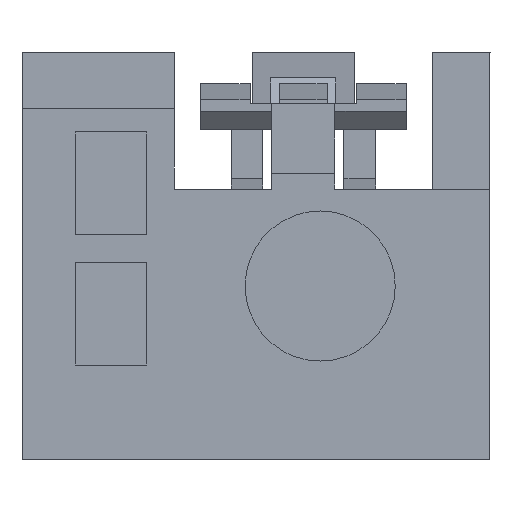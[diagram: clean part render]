
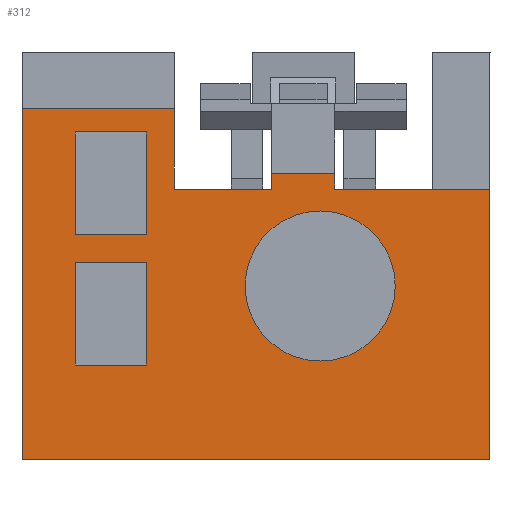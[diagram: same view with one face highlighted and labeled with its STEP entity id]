
A CAD part, left-side view. The second image highlights one B-rep face of the part: STEP entity #312.
In plain terms, the highlighted planar face has unit normal (-1, 0, 0).
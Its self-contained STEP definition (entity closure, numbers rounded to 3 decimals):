
#170=AXIS2_PLACEMENT_3D('Plane Axis2P3D',#167,#168,#169) ;
#296=AXIS2_PLACEMENT_3D('Circle Axis2P3D',#294,#295,$) ;
#305=AXIS2_PLACEMENT_3D('Circle Axis2P3D',#303,#304,$) ;
#80=CARTESIAN_POINT('Vertex',(-22.55,6.2,-2.)) ;
#83=CARTESIAN_POINT('Line Origine',(-22.55,5.3,-2.)) ;
#87=CARTESIAN_POINT('Vertex',(-22.55,4.4,-2.)) ;
#111=CARTESIAN_POINT('Vertex',(-22.55,6.2,0.6)) ;
#114=CARTESIAN_POINT('Line Origine',(-22.55,6.2,-0.7)) ;
#135=CARTESIAN_POINT('Vertex',(-22.55,4.4,0.6)) ;
#138=CARTESIAN_POINT('Line Origine',(-22.55,5.3,0.6)) ;
#155=CARTESIAN_POINT('Line Origine',(-22.55,4.4,-0.7)) ;
#167=CARTESIAN_POINT('Axis2P3D Location',(-22.55,0.,0.)) ;
#172=CARTESIAN_POINT('Line Origine',(-22.55,-4.3,-0.975)) ;
#176=CARTESIAN_POINT('Vertex',(-22.55,-4.3,-4.4)) ;
#178=CARTESIAN_POINT('Vertex',(-22.55,-4.3,2.45)) ;
#181=CARTESIAN_POINT('Line Origine',(-22.55,-2.338,2.45)) ;
#185=CARTESIAN_POINT('Vertex',(-22.55,-0.375,2.45)) ;
#188=CARTESIAN_POINT('Line Origine',(-22.55,-0.375,2.65)) ;
#192=CARTESIAN_POINT('Vertex',(-22.55,-0.375,2.85)) ;
#195=CARTESIAN_POINT('Line Origine',(-22.55,0.425,2.85)) ;
#199=CARTESIAN_POINT('Vertex',(-22.55,1.225,2.85)) ;
#202=CARTESIAN_POINT('Line Origine',(-22.55,1.225,2.65)) ;
#206=CARTESIAN_POINT('Vertex',(-22.55,1.225,2.45)) ;
#209=CARTESIAN_POINT('Line Origine',(-22.55,2.462,2.45)) ;
#213=CARTESIAN_POINT('Vertex',(-22.55,3.7,2.45)) ;
#216=CARTESIAN_POINT('Line Origine',(-22.55,3.7,3.475)) ;
#220=CARTESIAN_POINT('Vertex',(-22.55,3.7,4.5)) ;
#223=CARTESIAN_POINT('Line Origine',(-22.55,5.625,4.5)) ;
#227=CARTESIAN_POINT('Vertex',(-22.55,7.55,4.5)) ;
#230=CARTESIAN_POINT('Line Origine',(-22.55,7.55,0.05)) ;
#234=CARTESIAN_POINT('Vertex',(-22.55,7.55,-4.4)) ;
#237=CARTESIAN_POINT('Line Origine',(-22.55,1.625,-4.4)) ;
#260=CARTESIAN_POINT('Line Origine',(-22.55,5.3,1.3)) ;
#264=CARTESIAN_POINT('Vertex',(-22.55,6.2,1.3)) ;
#266=CARTESIAN_POINT('Vertex',(-22.55,4.4,1.3)) ;
#269=CARTESIAN_POINT('Line Origine',(-22.55,6.2,2.6)) ;
#273=CARTESIAN_POINT('Vertex',(-22.55,6.2,3.9)) ;
#276=CARTESIAN_POINT('Line Origine',(-22.55,5.3,3.9)) ;
#280=CARTESIAN_POINT('Vertex',(-22.55,4.4,3.9)) ;
#283=CARTESIAN_POINT('Line Origine',(-22.55,4.4,2.6)) ;
#294=CARTESIAN_POINT('Axis2P3D Location',(-22.55,0.,0.)) ;
#298=CARTESIAN_POINT('Vertex',(-22.55,-1.9,0.)) ;
#300=CARTESIAN_POINT('Vertex',(-22.55,1.9,0.)) ;
#303=CARTESIAN_POINT('Axis2P3D Location',(-22.55,0.,0.)) ;
#84=DIRECTION('Vector Direction',(0.,1.,0.)) ;
#115=DIRECTION('Vector Direction',(0.,0.,1.)) ;
#139=DIRECTION('Vector Direction',(0.,-1.,0.)) ;
#156=DIRECTION('Vector Direction',(0.,0.,-1.)) ;
#168=DIRECTION('Axis2P3D Direction',(-1.,0.,0.)) ;
#169=DIRECTION('Axis2P3D XDirection',(0.,-1.,0.)) ;
#173=DIRECTION('Vector Direction',(0.,0.,1.)) ;
#182=DIRECTION('Vector Direction',(0.,-1.,0.)) ;
#189=DIRECTION('Vector Direction',(0.,0.,1.)) ;
#196=DIRECTION('Vector Direction',(0.,1.,0.)) ;
#203=DIRECTION('Vector Direction',(0.,0.,-1.)) ;
#210=DIRECTION('Vector Direction',(0.,-1.,0.)) ;
#217=DIRECTION('Vector Direction',(0.,0.,-1.)) ;
#224=DIRECTION('Vector Direction',(0.,-1.,0.)) ;
#231=DIRECTION('Vector Direction',(0.,0.,1.)) ;
#238=DIRECTION('Vector Direction',(0.,1.,0.)) ;
#261=DIRECTION('Vector Direction',(0.,1.,0.)) ;
#270=DIRECTION('Vector Direction',(0.,0.,1.)) ;
#277=DIRECTION('Vector Direction',(0.,-1.,0.)) ;
#284=DIRECTION('Vector Direction',(0.,0.,-1.)) ;
#295=DIRECTION('Axis2P3D Direction',(-1.,0.,0.)) ;
#304=DIRECTION('Axis2P3D Direction',(-1.,0.,0.)) ;
#85=VECTOR('Line Direction',#84,1.) ;
#116=VECTOR('Line Direction',#115,1.) ;
#140=VECTOR('Line Direction',#139,1.) ;
#157=VECTOR('Line Direction',#156,1.) ;
#174=VECTOR('Line Direction',#173,1.) ;
#183=VECTOR('Line Direction',#182,1.) ;
#190=VECTOR('Line Direction',#189,1.) ;
#197=VECTOR('Line Direction',#196,1.) ;
#204=VECTOR('Line Direction',#203,1.) ;
#211=VECTOR('Line Direction',#210,1.) ;
#218=VECTOR('Line Direction',#217,1.) ;
#225=VECTOR('Line Direction',#224,1.) ;
#232=VECTOR('Line Direction',#231,1.) ;
#239=VECTOR('Line Direction',#238,1.) ;
#262=VECTOR('Line Direction',#261,1.) ;
#271=VECTOR('Line Direction',#270,1.) ;
#278=VECTOR('Line Direction',#277,1.) ;
#285=VECTOR('Line Direction',#284,1.) ;
#243=ORIENTED_EDGE('',*,*,#180,.T.) ;
#244=ORIENTED_EDGE('',*,*,#187,.T.) ;
#245=ORIENTED_EDGE('',*,*,#194,.T.) ;
#246=ORIENTED_EDGE('',*,*,#201,.T.) ;
#247=ORIENTED_EDGE('',*,*,#208,.T.) ;
#248=ORIENTED_EDGE('',*,*,#215,.T.) ;
#249=ORIENTED_EDGE('',*,*,#222,.F.) ;
#250=ORIENTED_EDGE('',*,*,#229,.F.) ;
#251=ORIENTED_EDGE('',*,*,#236,.T.) ;
#252=ORIENTED_EDGE('',*,*,#241,.F.) ;
#255=ORIENTED_EDGE('',*,*,#89,.F.) ;
#256=ORIENTED_EDGE('',*,*,#118,.F.) ;
#257=ORIENTED_EDGE('',*,*,#142,.F.) ;
#258=ORIENTED_EDGE('',*,*,#159,.F.) ;
#289=ORIENTED_EDGE('',*,*,#268,.F.) ;
#290=ORIENTED_EDGE('',*,*,#275,.F.) ;
#291=ORIENTED_EDGE('',*,*,#282,.F.) ;
#292=ORIENTED_EDGE('',*,*,#287,.F.) ;
#309=ORIENTED_EDGE('',*,*,#302,.F.) ;
#310=ORIENTED_EDGE('',*,*,#307,.F.) ;
#259=FACE_BOUND('',#254,.T.) ;
#293=FACE_BOUND('',#288,.T.) ;
#311=FACE_BOUND('',#308,.T.) ;
#312=ADVANCED_FACE('6099-1564_KANI',(#253,#259,#293,#311),#171,.T.) ;
#297=CIRCLE('generated circle',#296,1.9) ;
#306=CIRCLE('generated circle',#305,1.9) ;
#89=EDGE_CURVE('',#81,#88,#86,.F.) ;
#118=EDGE_CURVE('',#112,#81,#117,.F.) ;
#142=EDGE_CURVE('',#136,#112,#141,.F.) ;
#159=EDGE_CURVE('',#88,#136,#158,.F.) ;
#180=EDGE_CURVE('',#177,#179,#175,.T.) ;
#187=EDGE_CURVE('',#179,#186,#184,.F.) ;
#194=EDGE_CURVE('',#186,#193,#191,.T.) ;
#201=EDGE_CURVE('',#193,#200,#198,.T.) ;
#208=EDGE_CURVE('',#200,#207,#205,.T.) ;
#215=EDGE_CURVE('',#207,#214,#212,.F.) ;
#222=EDGE_CURVE('',#221,#214,#219,.T.) ;
#229=EDGE_CURVE('',#228,#221,#226,.T.) ;
#236=EDGE_CURVE('',#228,#235,#233,.F.) ;
#241=EDGE_CURVE('',#177,#235,#240,.T.) ;
#268=EDGE_CURVE('',#265,#267,#263,.F.) ;
#275=EDGE_CURVE('',#274,#265,#272,.F.) ;
#282=EDGE_CURVE('',#281,#274,#279,.F.) ;
#287=EDGE_CURVE('',#267,#281,#286,.F.) ;
#302=EDGE_CURVE('',#299,#301,#297,.T.) ;
#307=EDGE_CURVE('',#301,#299,#306,.T.) ;
#242=EDGE_LOOP('',(#243,#244,#245,#246,#247,#248,#249,#250,#251,#252)) ;
#254=EDGE_LOOP('',(#255,#256,#257,#258)) ;
#288=EDGE_LOOP('',(#289,#290,#291,#292)) ;
#308=EDGE_LOOP('',(#309,#310)) ;
#253=FACE_OUTER_BOUND('',#242,.T.) ;
#86=LINE('Line',#83,#85) ;
#117=LINE('Line',#114,#116) ;
#141=LINE('Line',#138,#140) ;
#158=LINE('Line',#155,#157) ;
#175=LINE('Line',#172,#174) ;
#184=LINE('Line',#181,#183) ;
#191=LINE('Line',#188,#190) ;
#198=LINE('Line',#195,#197) ;
#205=LINE('Line',#202,#204) ;
#212=LINE('Line',#209,#211) ;
#219=LINE('Line',#216,#218) ;
#226=LINE('Line',#223,#225) ;
#233=LINE('Line',#230,#232) ;
#240=LINE('Line',#237,#239) ;
#263=LINE('Line',#260,#262) ;
#272=LINE('Line',#269,#271) ;
#279=LINE('Line',#276,#278) ;
#286=LINE('Line',#283,#285) ;
#171=PLANE('',#170) ;
#81=VERTEX_POINT('',#80) ;
#88=VERTEX_POINT('',#87) ;
#112=VERTEX_POINT('',#111) ;
#136=VERTEX_POINT('',#135) ;
#177=VERTEX_POINT('',#176) ;
#179=VERTEX_POINT('',#178) ;
#186=VERTEX_POINT('',#185) ;
#193=VERTEX_POINT('',#192) ;
#200=VERTEX_POINT('',#199) ;
#207=VERTEX_POINT('',#206) ;
#214=VERTEX_POINT('',#213) ;
#221=VERTEX_POINT('',#220) ;
#228=VERTEX_POINT('',#227) ;
#235=VERTEX_POINT('',#234) ;
#265=VERTEX_POINT('',#264) ;
#267=VERTEX_POINT('',#266) ;
#274=VERTEX_POINT('',#273) ;
#281=VERTEX_POINT('',#280) ;
#299=VERTEX_POINT('',#298) ;
#301=VERTEX_POINT('',#300) ;
